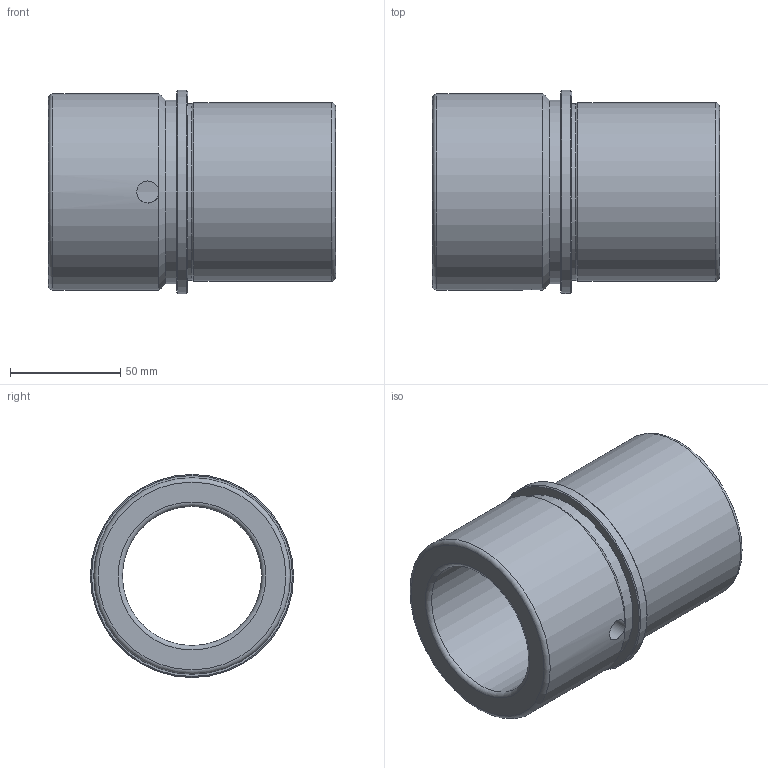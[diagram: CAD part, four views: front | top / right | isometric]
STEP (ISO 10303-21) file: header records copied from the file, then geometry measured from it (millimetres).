
FILE_DESCRIPTION(/* description */ ('Impex Ready, www.impex-ready.pl'),/* implementation_level */ '2;1');
FILE_NAME(/* name */ 'C:\Users\VIKKY\Nextcloud\SM\projekt 10 - części na stronę internetową\Pliki_3D_new\298 Tuleje BBE\298_Tuleje_BBE_STEP\BBE63XL.ipt.step',/* time_stamp */ '2021-12-17T14:26:14+01:00',/* author */ ('SM'),/* organization */ (''),/* preprocessor_version */ 'ST-DEVELOPER v18.1',/* originating_system */ 'Autodesk Inventor 2021',/* authorisation */ '');
FILE_SCHEMA (('AUTOMOTIVE_DESIGN { 1 0 10303 214 3 1 1 }'));
Length unit declared in the file: millimetre
Products named in the file (1): BBE63XL
Bounding box: 130 x 92 x 92 mm (x, y, z)
Volume: 326594.1 mm3; surface area: 67959 mm2
Topology: 1 solids, 1 shells, 19 faces, 43 edges, 26 vertices
Faces by surface type: cylinder 7, torus 4, plane 4, cone 4
Full cylindrical faces by diameter (mm): 10 x1, 63 x1, 80 x1, 81 x1, 83 x1, 89 x1, 92 x1
Entity records: 685 total; most frequent: CARTESIAN_POINT 159, DIRECTION 104, ORIENTED_EDGE 86, AXIS2_PLACEMENT_3D 46, EDGE_CURVE 43, CIRCLE 26, VERTEX_POINT 26, EDGE_LOOP 23
